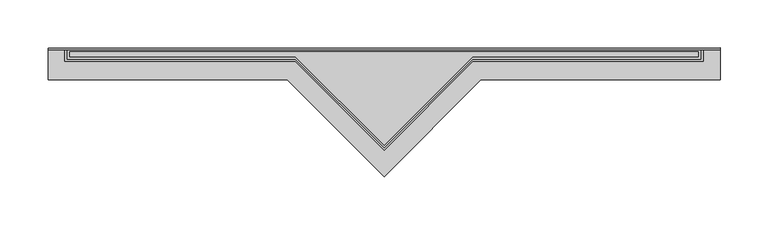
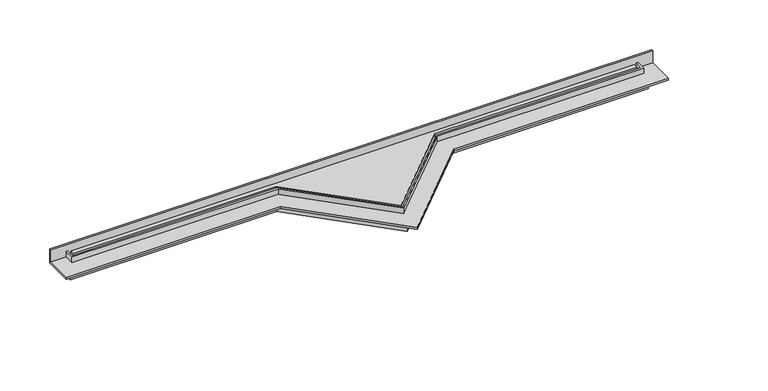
"""IFC4 building model written with IfcOpenShell, lengths in millimetres: sanitary terminal geometry, NLRS_PF_52_UN_S-Line_Easydrain : S-Line met M2 ondiep sifonhuis."""

from ifc_helpers import new_model, si_unit, point, frame, frame_2d, origin, place, context, project, spatial, polyline, circle_curve, trimmed, segment, composite_curve, outline, extrude, faceted_brep, source, transform, mapped, element, save


def sanitary_terminal_dfeab300(model_context):
    return source(origin(), model_context, "Body", "SolidModel", [
        faceted_brep([(350.0, 33.0, 8.0), (-350.0, 33.0, 8.0), (-350.0, 31.0, 8.0), (350.0, 31.0, 8.0), (-350.0, 31.0, -7.0), (350.0, 31.0, -7.0), (-336.0, 15.5, -24.5), (-336.0, 29.0, -24.5), (336.0, 29.0, -24.5), (336.0, 15.5, -24.5), (96.0, 15.5, -24.5), (0.0, -80.5, -24.5), (-96.0, 15.5, -24.5), (-96.0, 15.5, -9.5), (-336.0, 15.5, -9.5), (-336.0, 29.0, -9.5), (336.0, 29.0, -9.5), (336.0, 15.5, -9.5), (96.0, 15.5, -9.5), (0.0, -80.5, -9.5), (350.0, 33.0, -9.5), (350.0, 0.0, -9.5), (101.0, 0.0, -9.5), (0.0, -101.0, -9.5), (-101.0, 0.0, -9.5), (-350.0, 0.0, -9.5), (-350.0, 33.0, -9.5), (-350.0, 0.0, -7.0), (-101.0, 0.0, -7.0), (0.0, -101.0, -7.0), (101.0, 0.0, -7.0), (350.0, 0.0, -7.0)], [[[0, 1, 2, 3]], [[3, 2, 4, 5]], [[6, 7, 8, 9, 10, 11, 12]], [[6, 12, 13, 14]], [[7, 6, 14, 15]], [[8, 7, 15, 16]], [[9, 8, 16, 17]], [[10, 9, 17, 18]], [[11, 10, 18, 19]], [[12, 11, 19, 13]], [[20, 21, 22, 23, 24, 25, 26], [14, 13, 19, 18, 17, 16, 15]], [[27, 28, 29, 30, 31, 5, 4]], [[20, 26, 1, 0]], [[26, 25, 27, 4, 2, 1]], [[25, 24, 28, 27]], [[24, 23, 29, 28]], [[23, 22, 30, 29]], [[22, 21, 31, 30]], [[21, 20, 0, 3, 5, 31]]]),
        extrude(outline(composite_curve([segment(trimmed(circle_curve(frame_2d((0.0, -21.0)), 25.0), [point((-25.0, -21.0))], [point((25.0, -21.0))], False, "CARTESIAN"), True, "CONTINUOUS"), segment(trimmed(circle_curve(frame_2d((0.0, -21.0)), 25.0), [point((25.0, -21.0))], [point((-25.0, -21.0))], False, "CARTESIAN"), True, "CONTINUOUS")], self_intersect=False)), frame((0.0, 0.0, -24.5), z_axis=(0.0, 0.0, 1.0), x_axis=(1.0, 0.0, 0.0)), (0.0, 0.0, 1.0), 17.5),
        extrude(outline(polyline([(-92.5, 24.0), (-327.5, 24.0), (-327.5, 29.0), (327.5, 29.0), (327.5, 24.0), (92.5, 24.0), (0.0, -68.5), (-92.5, 24.0)])), frame((0.0, 0.0, -7.0), z_axis=(0.0, 0.0, 1.0), x_axis=(1.0, 0.0, 0.0)), (0.0, 0.0, 1.0), 7.0),
        extrude(outline(polyline([(332.5, 33.0), (332.5, 19.0), (92.5, 19.0), (0.0, -73.5), (-92.5, 19.0), (-332.5, 19.0), (-332.5, 33.0), (332.5, 33.0)]), holes=[polyline([(-92.5, 21.5), (0.0, -71.0), (92.5, 21.5), (330.0, 21.5), (330.0, 31.0), (-330.0, 31.0), (-330.0, 21.5), (-92.5, 21.5)])]), frame((0.0, 0.0, -7.0), z_axis=(0.0, 0.0, 1.0), x_axis=(1.0, 0.0, 0.0)), (0.0, 0.0, 1.0), 7.0),
    ])


if __name__ == "__main__":
    model = new_model("IFC4")
    model_context = context("Model", 3, world=origin())
    ifc_project = project(units=[si_unit("LENGTHUNIT", "METRE", prefix="MILLI")], contexts=[model_context])
    site = spatial("IfcSite", under=ifc_project)
    building = spatial("IfcBuilding", under=site)
    placement = place(None, origin())
    sanitary_terminal_shape = sanitary_terminal_dfeab300(model_context)
    element("IfcSanitaryTerminal", 1, ObjectType="NLRS_PF_52_UN_S-Line_Easydrain : S-Line met M2 ondiep sifonhuis", at=placement, inside=building, context=model_context, shape_type="MappedRepresentation", body=[
        mapped(sanitary_terminal_shape, transform((0.0, 0.0, 0.0), x_axis=(1.0, 0.0, 0.0), y_axis=(0.0, 1.0, 0.0), z_axis=(0.0, 0.0, 1.0))),
    ])
    save(model, "model.ifc")
